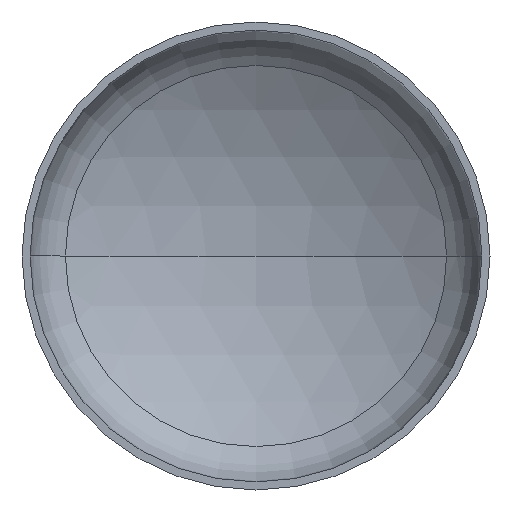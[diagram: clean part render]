
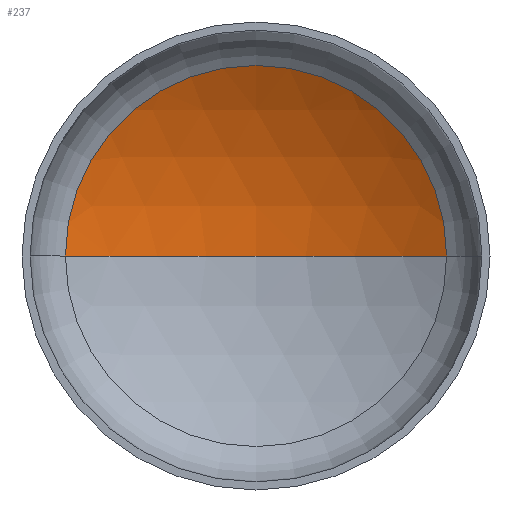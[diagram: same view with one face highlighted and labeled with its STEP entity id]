
A CAD part, front view. The second image highlights one B-rep face of the part: STEP entity #237.
In plain terms, the highlighted spherical face has radius 5200 mm.
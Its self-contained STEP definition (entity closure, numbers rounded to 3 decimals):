
#16 = ORIENTED_EDGE ( 'NONE', *, *, #337, .F. ) ;
#17 = VERTEX_POINT ( 'NONE', #236 ) ;
#53 = AXIS2_PLACEMENT_3D ( 'NONE', #261, #192, #343 ) ;
#71 = VERTEX_POINT ( 'NONE', #187 ) ;
#103 = ORIENTED_EDGE ( 'NONE', *, *, #283, .T. ) ;
#106 = EDGE_LOOP ( 'NONE', ( #16, #118, #103 ) ) ;
#113 = CIRCLE ( 'NONE', #53, 2647.048 ) ;
#118 = ORIENTED_EDGE ( 'NONE', *, *, #317, .T. ) ;
#128 = SPHERICAL_SURFACE ( 'NONE', #364, 5200. ) ;
#138 = FACE_OUTER_BOUND ( 'NONE', #106, .T. ) ;
#167 = CARTESIAN_POINT ( 'NONE',  ( 0., -3540.101, 0. ) ) ;
#178 = CIRCLE ( 'NONE', #220, 5200. ) ;
#187 = CARTESIAN_POINT ( 'NONE',  ( -2647.048, 935.738, 0. ) ) ;
#192 = DIRECTION ( 'NONE',  ( 0., -1., 0. ) ) ;
#198 = DIRECTION ( 'NONE',  ( 1., 0., 0. ) ) ;
#206 = AXIS2_PLACEMENT_3D ( 'NONE', #167, #347, #198 ) ;
#213 = CARTESIAN_POINT ( 'NONE',  ( 0., 1659.899, 0. ) ) ;
#219 = DIRECTION ( 'NONE',  ( -1., 0., 0. ) ) ;
#220 = AXIS2_PLACEMENT_3D ( 'NONE', #288, #374, #219 ) ;
#228 = DIRECTION ( 'NONE',  ( -1., 0., 0. ) ) ;
#236 = CARTESIAN_POINT ( 'NONE',  ( 2647.048, 935.738, 0. ) ) ;
#237 = ADVANCED_FACE ( 'NONE', ( #138 ), #128, .F. ) ;
#261 = CARTESIAN_POINT ( 'NONE',  ( 0., 935.738, 0. ) ) ;
#265 = DIRECTION ( 'NONE',  ( 0., 0., -1. ) ) ;
#283 = EDGE_CURVE ( 'NONE', #17, #71, #113, .T. ) ;
#288 = CARTESIAN_POINT ( 'NONE',  ( 0., -3540.101, 0. ) ) ;
#309 = CIRCLE ( 'NONE', #206, 5200. ) ;
#317 = EDGE_CURVE ( 'NONE', #381, #17, #178, .T. ) ;
#337 = EDGE_CURVE ( 'NONE', #381, #71, #309, .T. ) ;
#339 = CARTESIAN_POINT ( 'NONE',  ( 0., -3540.101, 0. ) ) ;
#343 = DIRECTION ( 'NONE',  ( 1., 0., 0. ) ) ;
#347 = DIRECTION ( 'NONE',  ( 0., 0., 1. ) ) ;
#364 = AXIS2_PLACEMENT_3D ( 'NONE', #339, #265, #228 ) ;
#374 = DIRECTION ( 'NONE',  ( 0., 0., -1. ) ) ;
#381 = VERTEX_POINT ( 'NONE', #213 ) ;
